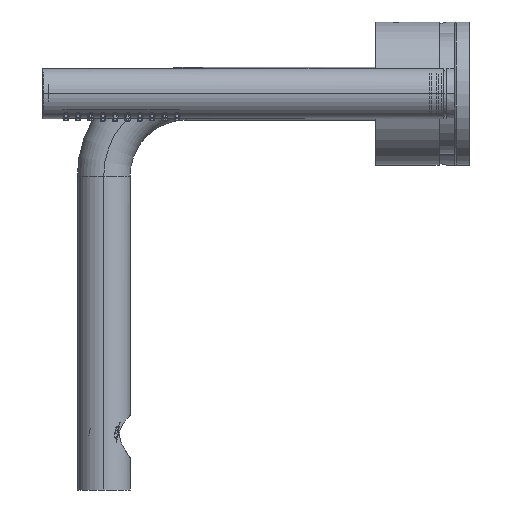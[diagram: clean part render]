
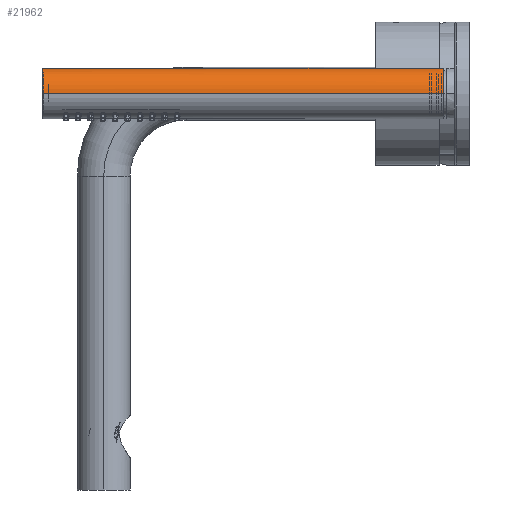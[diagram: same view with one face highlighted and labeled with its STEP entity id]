
A CAD part, left-side view. The second image highlights one B-rep face of the part: STEP entity #21962.
In plain terms, the highlighted cylindrical face has radius 11.5 mm (diameter 23 mm), a partial arc.
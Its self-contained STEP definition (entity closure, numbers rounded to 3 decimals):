
#9029=DIRECTION('',(0.,-1.,0.));
#9030=VECTOR('',#9029,182.1);
#9031=CARTESIAN_POINT('',(-388.5,193.7,0.));
#9032=LINE('',#9031,#9030);
#9033=DIRECTION('',(0.,1.,0.));
#9034=VECTOR('',#9033,1.9);
#9035=CARTESIAN_POINT('',(-398.9,11.6,11.447));
#9036=LINE('',#9035,#9034);
#9037=CARTESIAN_POINT('',(-398.9,13.5,11.447));
#9038=CARTESIAN_POINT('',(-398.9,13.518,11.447));
#9039=CARTESIAN_POINT('',(-398.901,13.554,11.447));
#9040=CARTESIAN_POINT('',(-398.905,13.608,11.448));
#9041=CARTESIAN_POINT('',(-398.911,13.661,11.448));
#9042=CARTESIAN_POINT('',(-398.921,13.714,11.449));
#9043=CARTESIAN_POINT('',(-398.932,13.767,11.45));
#9044=CARTESIAN_POINT('',(-398.947,13.819,11.452));
#9045=CARTESIAN_POINT('',(-398.964,13.87,11.453));
#9046=CARTESIAN_POINT('',(-398.983,13.921,11.455));
#9047=CARTESIAN_POINT('',(-399.005,13.97,11.457));
#9048=CARTESIAN_POINT('',(-399.029,14.018,11.459));
#9049=CARTESIAN_POINT('',(-399.056,14.065,11.461));
#9050=CARTESIAN_POINT('',(-399.085,14.111,11.464));
#9051=CARTESIAN_POINT('',(-399.116,14.155,11.466));
#9052=CARTESIAN_POINT('',(-399.149,14.198,11.469));
#9053=CARTESIAN_POINT('',(-399.185,14.239,11.471));
#9054=CARTESIAN_POINT('',(-399.222,14.278,11.474));
#9055=CARTESIAN_POINT('',(-399.261,14.315,11.476));
#9056=CARTESIAN_POINT('',(-399.302,14.351,11.479));
#9057=CARTESIAN_POINT('',(-399.345,14.384,11.481));
#9058=CARTESIAN_POINT('',(-399.389,14.415,11.484));
#9059=CARTESIAN_POINT('',(-399.435,14.444,11.486));
#9060=CARTESIAN_POINT('',(-399.482,14.471,11.488));
#9061=CARTESIAN_POINT('',(-399.53,14.495,11.49));
#9062=CARTESIAN_POINT('',(-399.579,14.517,11.492));
#9063=CARTESIAN_POINT('',(-399.63,14.536,11.494));
#9064=CARTESIAN_POINT('',(-399.681,14.553,11.496));
#9065=CARTESIAN_POINT('',(-399.733,14.568,11.497));
#9066=CARTESIAN_POINT('',(-399.786,14.579,11.498));
#9067=CARTESIAN_POINT('',(-399.839,14.589,11.499));
#9068=CARTESIAN_POINT('',(-399.892,14.595,11.5));
#9069=CARTESIAN_POINT('',(-399.946,14.599,11.5));
#9070=CARTESIAN_POINT('',(-399.982,14.6,11.5));
#9071=CARTESIAN_POINT('',(-400.,14.6,11.5));
#9073=CARTESIAN_POINT('',(-400.,14.6,11.5));
#9074=CARTESIAN_POINT('',(-400.018,14.6,11.5));
#9075=CARTESIAN_POINT('',(-400.054,14.599,11.5));
#9076=CARTESIAN_POINT('',(-400.108,14.595,11.5));
#9077=CARTESIAN_POINT('',(-400.161,14.589,11.499));
#9078=CARTESIAN_POINT('',(-400.214,14.579,11.498));
#9079=CARTESIAN_POINT('',(-400.267,14.568,11.497));
#9080=CARTESIAN_POINT('',(-400.319,14.553,11.496));
#9081=CARTESIAN_POINT('',(-400.37,14.536,11.494));
#9082=CARTESIAN_POINT('',(-400.421,14.517,11.492));
#9083=CARTESIAN_POINT('',(-400.47,14.495,11.49));
#9084=CARTESIAN_POINT('',(-400.518,14.471,11.488));
#9085=CARTESIAN_POINT('',(-400.565,14.444,11.486));
#9086=CARTESIAN_POINT('',(-400.611,14.415,11.484));
#9087=CARTESIAN_POINT('',(-400.655,14.384,11.481));
#9088=CARTESIAN_POINT('',(-400.698,14.351,11.479));
#9089=CARTESIAN_POINT('',(-400.739,14.315,11.476));
#9090=CARTESIAN_POINT('',(-400.778,14.278,11.474));
#9091=CARTESIAN_POINT('',(-400.815,14.239,11.471));
#9092=CARTESIAN_POINT('',(-400.851,14.198,11.469));
#9093=CARTESIAN_POINT('',(-400.884,14.155,11.466));
#9094=CARTESIAN_POINT('',(-400.915,14.111,11.464));
#9095=CARTESIAN_POINT('',(-400.944,14.065,11.461));
#9096=CARTESIAN_POINT('',(-400.971,14.018,11.459));
#9097=CARTESIAN_POINT('',(-400.995,13.97,11.457));
#9098=CARTESIAN_POINT('',(-401.017,13.921,11.455));
#9099=CARTESIAN_POINT('',(-401.036,13.87,11.453));
#9100=CARTESIAN_POINT('',(-401.053,13.819,11.452));
#9101=CARTESIAN_POINT('',(-401.068,13.767,11.45));
#9102=CARTESIAN_POINT('',(-401.079,13.714,11.449));
#9103=CARTESIAN_POINT('',(-401.089,13.661,11.448));
#9104=CARTESIAN_POINT('',(-401.095,13.608,11.448));
#9105=CARTESIAN_POINT('',(-401.099,13.554,11.447));
#9106=CARTESIAN_POINT('',(-401.1,13.518,11.447));
#9107=CARTESIAN_POINT('',(-401.1,13.5,11.447));
#9109=DIRECTION('',(0.,-1.,0.));
#9110=VECTOR('',#9109,1.9);
#9111=CARTESIAN_POINT('',(-401.1,13.5,11.447));
#9112=LINE('',#9111,#9110);
#9113=DIRECTION('',(0.,-1.,0.));
#9114=VECTOR('',#9113,182.1);
#9115=CARTESIAN_POINT('',(-411.5,193.7,0.));
#9116=LINE('',#9115,#9114);
#9122=CARTESIAN_POINT('',(-400.,11.6,0.));
#9123=DIRECTION('',(0.,-1.,0.));
#9124=DIRECTION('',(-0.096,0.,0.995));
#9125=AXIS2_PLACEMENT_3D('',#9122,#9123,#9124);
#9141=CARTESIAN_POINT('',(-400.,11.6,0.));
#9142=DIRECTION('',(0.,-1.,0.));
#9143=DIRECTION('',(1.,0.,0.));
#9144=AXIS2_PLACEMENT_3D('',#9141,#9142,#9143);
#14582=CARTESIAN_POINT('',(-400.,193.7,0.));
#14583=DIRECTION('',(0.,1.,0.));
#14584=DIRECTION('',(-1.,0.,0.));
#14585=AXIS2_PLACEMENT_3D('',#14582,#14583,#14584);
#21346=CARTESIAN_POINT('',(-398.9,11.6,11.447));
#21348=VERTEX_POINT('',#21346);
#21354=CARTESIAN_POINT('',(-401.1,11.6,11.447));
#21355=VERTEX_POINT('',#21354);
#21356=CARTESIAN_POINT('',(-411.5,11.6,0.));
#21357=VERTEX_POINT('',#21356);
#21358=CARTESIAN_POINT('',(-401.1,13.5,11.447));
#21359=VERTEX_POINT('',#21358);
#21360=VERTEX_POINT('',#9073);
#21361=VERTEX_POINT('',#9037);
#21368=CARTESIAN_POINT('',(-388.5,193.7,0.));
#21369=CARTESIAN_POINT('',(-388.5,11.6,0.));
#21370=VERTEX_POINT('',#21368);
#21371=VERTEX_POINT('',#21369);
#21372=CARTESIAN_POINT('',(-411.5,193.7,0.));
#21373=VERTEX_POINT('',#21372);
#21939=CARTESIAN_POINT('',(-400.,11.6,0.));
#21940=DIRECTION('',(0.,-1.,0.));
#21941=DIRECTION('',(-1.,0.,0.));
#21942=AXIS2_PLACEMENT_3D('',#21939,#21940,#21941);
#21943=CYLINDRICAL_SURFACE('',#21942,11.5);
#21944=ORIENTED_EDGE('',*,*,#21683,.T.);
#21946=ORIENTED_EDGE('',*,*,#21945,.T.);
#21948=ORIENTED_EDGE('',*,*,#21947,.T.);
#21950=ORIENTED_EDGE('',*,*,#21949,.T.);
#21952=ORIENTED_EDGE('',*,*,#21951,.T.);
#21954=ORIENTED_EDGE('',*,*,#21953,.T.);
#21956=ORIENTED_EDGE('',*,*,#21955,.T.);
#21957=ORIENTED_EDGE('',*,*,#21687,.F.);
#21959=ORIENTED_EDGE('',*,*,#21958,.T.);
#21960=EDGE_LOOP('',(#21944,#21946,#21948,#21950,#21952,#21954,#21956,#21957,
#21959));
#21961=FACE_OUTER_BOUND('',#21960,.F.);
#9072=B_SPLINE_CURVE_WITH_KNOTS('',3,(#9037,#9038,#9039,#9040,#9041,#9042,#9043,
#9044,#9045,#9046,#9047,#9048,#9049,#9050,#9051,#9052,#9053,#9054,#9055,#9056,
#9057,#9058,#9059,#9060,#9061,#9062,#9063,#9064,#9065,#9066,#9067,#9068,#9069,
#9070,#9071),.UNSPECIFIED.,.F.,.F.,(4,1,1,1,1,1,1,1,1,1,1,1,1,1,1,1,1,1,1,1,1,1,
1,1,1,1,1,1,1,1,1,1,4),(0.,0.031,0.063,0.094,0.125,0.156,
0.188,0.219,0.25,0.281,0.313,0.344,0.375,0.406,
0.438,0.469,0.5,0.531,0.563,0.594,0.625,0.656,
0.688,0.719,0.75,0.781,0.813,0.844,0.875,0.906,
0.938,0.969,1.),.UNSPECIFIED.);
#9108=B_SPLINE_CURVE_WITH_KNOTS('',3,(#9073,#9074,#9075,#9076,#9077,#9078,#9079,
#9080,#9081,#9082,#9083,#9084,#9085,#9086,#9087,#9088,#9089,#9090,#9091,#9092,
#9093,#9094,#9095,#9096,#9097,#9098,#9099,#9100,#9101,#9102,#9103,#9104,#9105,
#9106,#9107),.UNSPECIFIED.,.F.,.F.,(4,1,1,1,1,1,1,1,1,1,1,1,1,1,1,1,1,1,1,1,1,1,
1,1,1,1,1,1,1,1,1,1,4),(0.,0.031,0.063,0.094,0.125,0.156,
0.188,0.219,0.25,0.281,0.313,0.344,0.375,0.406,
0.438,0.469,0.5,0.531,0.563,0.594,0.625,0.656,
0.688,0.719,0.75,0.781,0.813,0.844,0.875,0.906,
0.938,0.969,1.),.UNSPECIFIED.);
#9126=CIRCLE('',#9125,11.5);
#9145=CIRCLE('',#9144,11.5);
#14586=CIRCLE('',#14585,11.5);
#21683=EDGE_CURVE('',#21370,#21371,#9032,.T.);
#21687=EDGE_CURVE('',#21373,#21357,#9116,.T.);
#21945=EDGE_CURVE('',#21371,#21348,#9145,.T.);
#21947=EDGE_CURVE('',#21348,#21361,#9036,.T.);
#21949=EDGE_CURVE('',#21361,#21360,#9072,.T.);
#21951=EDGE_CURVE('',#21360,#21359,#9108,.T.);
#21953=EDGE_CURVE('',#21359,#21355,#9112,.T.);
#21955=EDGE_CURVE('',#21355,#21357,#9126,.T.);
#21958=EDGE_CURVE('',#21373,#21370,#14586,.T.);
#21962=ADVANCED_FACE('',(#21961),#21943,.T.);
